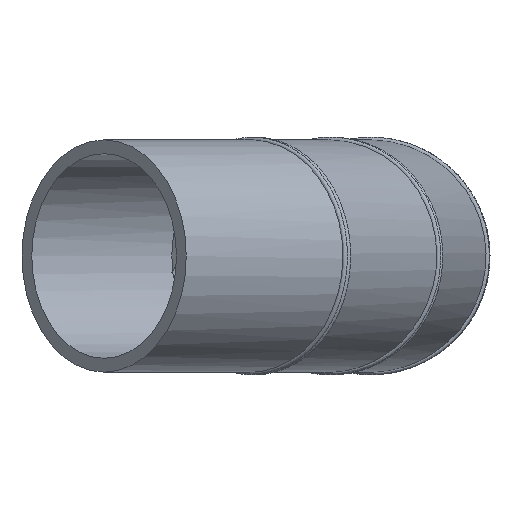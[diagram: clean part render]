
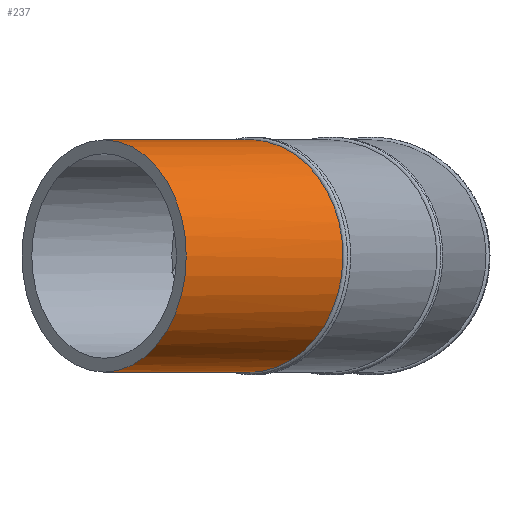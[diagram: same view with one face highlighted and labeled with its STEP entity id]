
A CAD part, front view. The second image highlights one B-rep face of the part: STEP entity #237.
In plain terms, the highlighted cylindrical face has radius 177.5 mm (diameter 355 mm), a full revolution.
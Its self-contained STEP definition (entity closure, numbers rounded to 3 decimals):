
#41=B_SPLINE_CURVE_WITH_KNOTS('',3,(#403,#404,#405,#406,#407,#408,#409,
#410,#411,#412,#413,#414,#415,#416,#417,#418,#419,#420,#421,#422,#423,#424,
#425,#426,#427,#428,#429,#430,#431,#432,#433,#434,#435,#436,#437,#438,#439,
#440,#441,#442,#443,#444,#445,#446,#447,#448,#449,#450,#451,#452,#453,#454,
#455,#456,#457,#458,#459,#460,#461,#462,#463,#464,#465,#466,#467,#468,#469,
#470,#471,#472,#473,#474,#475,#476,#477,#478,#479,#480,#481,#482,#483,#484),
 .UNSPECIFIED.,.T.,.F.,(1,1,1,1,1,1,1,1,1,1,1,1,1,1,1,1,1,1,1,1,1,1,1,1,
1,1,1,1,1,1,1,1,1,1,1,1,1,1,1,1,1,1,1,1,1,1,1,1,1,1,1,1,1,1,1,1,1,1,1,1,
1,1,1,1,1,1,1,1,1,1,1,1,1,1,1,1,1,1,1,1,1,1,1,1,1,1),(-0.07,
-0.053,-0.035,0.,0.018,
0.035,0.044,0.053,0.07,
0.088,0.097,0.105,0.123,
0.141,0.158,0.167,0.176,
0.193,0.211,0.229,0.246,
0.264,0.272,0.281,0.299,
0.316,0.334,0.343,0.352,
0.36,0.369,0.387,0.404,0.422,
0.439,0.457,0.475,0.483,
0.492,0.51,0.527,0.545,
0.554,0.562,0.571,0.58,
0.598,0.615,0.633,0.65,
0.659,0.668,0.686,0.703,
0.721,0.729,0.738,0.747,0.756,
0.773,0.791,0.809,0.817,
0.826,0.844,0.861,0.879,
0.896,0.914,0.932,0.94,
0.949,0.958,0.967,0.984,
1.002,1.019,1.037,1.046,1.055,
1.072,1.09,1.125,1.143,1.16,
1.169),.UNSPECIFIED.);
#50=CYLINDRICAL_SURFACE('',#287,177.5);
#82=ORIENTED_EDGE('',*,*,#134,.T.);
#83=ORIENTED_EDGE('',*,*,#127,.F.);
#127=EDGE_CURVE('',#153,#153,#173,.T.);
#134=EDGE_CURVE('',#160,#160,#41,.T.);
#153=VERTEX_POINT('',#388);
#160=VERTEX_POINT('',#485);
#173=CIRCLE('',#279,177.5);
#179=EDGE_LOOP('',(#82));
#180=EDGE_LOOP('',(#83));
#207=FACE_BOUND('',#179,.T.);
#208=FACE_BOUND('',#180,.T.);
#237=ADVANCED_FACE('',(#207,#208),#50,.T.);
#279=AXIS2_PLACEMENT_3D('',#387,#317,#318);
#287=AXIS2_PLACEMENT_3D('',#402,#333,#334);
#317=DIRECTION('',(0.,1.,0.));
#318=DIRECTION('',(-1.,0.,0.));
#333=DIRECTION('',(0.,1.,0.));
#334=DIRECTION('',(-1.,0.,0.));
#387=CARTESIAN_POINT('',(899.097,205.,0.));
#388=CARTESIAN_POINT('',(721.597,205.,0.));
#402=CARTESIAN_POINT('',(899.097,-141.737,0.));
#403=CARTESIAN_POINT('',(723.34,-87.194,-29.263));
#404=CARTESIAN_POINT('',(721.014,-86.889,-5.865));
#405=CARTESIAN_POINT('',(722.18,-87.042,17.58));
#406=CARTESIAN_POINT('',(724.332,-87.325,31.995));
#407=CARTESIAN_POINT('',(726.918,-87.664,43.434));
#408=CARTESIAN_POINT('',(730.042,-88.074,54.641));
#409=CARTESIAN_POINT('',(734.932,-88.716,68.235));
#410=CARTESIAN_POINT('',(741.115,-89.528,81.283));
#411=CARTESIAN_POINT('',(746.847,-90.281,91.388));
#412=CARTESIAN_POINT('',(753.116,-91.104,101.269));
#413=CARTESIAN_POINT('',(761.796,-92.244,112.946));
#414=CARTESIAN_POINT('',(773.587,-93.793,125.918));
#415=CARTESIAN_POINT('',(784.375,-95.21,135.664));
#416=CARTESIAN_POINT('',(793.579,-96.42,142.82));
#417=CARTESIAN_POINT('',(803.08,-97.669,149.486));
#418=CARTESIAN_POINT('',(815.594,-99.314,156.955));
#419=CARTESIAN_POINT('',(831.339,-101.384,164.367));
#420=CARTESIAN_POINT('',(847.795,-103.548,170.22));
#421=CARTESIAN_POINT('',(864.504,-105.746,174.378));
#422=CARTESIAN_POINT('',(878.693,-107.613,176.487));
#423=CARTESIAN_POINT('',(890.186,-109.126,177.347));
#424=CARTESIAN_POINT('',(901.807,-110.656,177.645));
#425=CARTESIAN_POINT('',(916.263,-112.559,176.954));
#426=CARTESIAN_POINT('',(933.53,-114.834,174.418));
#427=CARTESIAN_POINT('',(947.578,-116.684,170.923));
#428=CARTESIAN_POINT('',(958.633,-118.141,167.293));
#429=CARTESIAN_POINT('',(966.753,-119.211,164.177));
#430=CARTESIAN_POINT('',(974.709,-120.26,160.668));
#431=CARTESIAN_POINT('',(985.115,-121.632,155.455));
#432=CARTESIAN_POINT('',(997.58,-123.275,148.017));
#433=CARTESIAN_POINT('',(1011.65,-125.131,137.621));
#434=CARTESIAN_POINT('',(1024.595,-126.839,125.931));
#435=CARTESIAN_POINT('',(1036.38,-128.393,112.963));
#436=CARTESIAN_POINT('',(1046.698,-129.755,99.093));
#437=CARTESIAN_POINT('',(1054.149,-130.738,86.739));
#438=CARTESIAN_POINT('',(1059.399,-131.432,76.387));
#439=CARTESIAN_POINT('',(1064.174,-132.062,65.693));
#440=CARTESIAN_POINT('',(1069.118,-132.715,51.975));
#441=CARTESIAN_POINT('',(1073.423,-133.283,34.917));
#442=CARTESIAN_POINT('',(1075.581,-133.568,20.479));
#443=CARTESIAN_POINT('',(1076.452,-133.683,8.786));
#444=CARTESIAN_POINT('',(1076.668,-133.712,0.029));
#445=CARTESIAN_POINT('',(1076.454,-133.683,-8.731));
#446=CARTESIAN_POINT('',(1075.587,-133.569,-20.426));
#447=CARTESIAN_POINT('',(1073.435,-133.285,-34.86));
#448=CARTESIAN_POINT('',(1069.131,-132.716,-51.927));
#449=CARTESIAN_POINT('',(1063.256,-131.941,-68.245));
#450=CARTESIAN_POINT('',(1057.074,-131.125,-81.288));
#451=CARTESIAN_POINT('',(1051.357,-130.37,-91.37));
#452=CARTESIAN_POINT('',(1045.097,-129.544,-101.242));
#453=CARTESIAN_POINT('',(1036.412,-128.398,-112.928));
#454=CARTESIAN_POINT('',(1024.623,-126.842,-125.901));
#455=CARTESIAN_POINT('',(1013.844,-125.42,-135.641));
#456=CARTESIAN_POINT('',(1004.638,-124.206,-142.803));
#457=CARTESIAN_POINT('',(997.506,-123.266,-147.808));
#458=CARTESIAN_POINT('',(990.144,-122.295,-152.454));
#459=CARTESIAN_POINT('',(980.001,-120.958,-158.177));
#460=CARTESIAN_POINT('',(966.881,-119.228,-164.356));
#461=CARTESIAN_POINT('',(950.428,-117.06,-170.213));
#462=CARTESIAN_POINT('',(936.379,-115.209,-173.71));
#463=CARTESIAN_POINT('',(924.916,-113.699,-175.684));
#464=CARTESIAN_POINT('',(913.461,-112.191,-177.082));
#465=CARTESIAN_POINT('',(899.131,-110.304,-177.776));
#466=CARTESIAN_POINT('',(881.951,-108.042,-176.953));
#467=CARTESIAN_POINT('',(864.694,-105.771,-174.424));
#468=CARTESIAN_POINT('',(847.824,-103.552,-170.23));
#469=CARTESIAN_POINT('',(831.372,-101.388,-164.38));
#470=CARTESIAN_POINT('',(818.25,-99.663,-158.206));
#471=CARTESIAN_POINT('',(808.105,-98.329,-152.487));
#472=CARTESIAN_POINT('',(800.742,-97.361,-147.844));
#473=CARTESIAN_POINT('',(793.608,-96.424,-142.842));
#474=CARTESIAN_POINT('',(784.399,-95.214,-135.684));
#475=CARTESIAN_POINT('',(773.618,-93.797,-125.95));
#476=CARTESIAN_POINT('',(761.818,-92.247,-112.97));
#477=CARTESIAN_POINT('',(751.488,-90.89,-99.082));
#478=CARTESIAN_POINT('',(744.042,-89.912,-86.734));
#479=CARTESIAN_POINT('',(738.8,-89.224,-76.399));
#480=CARTESIAN_POINT('',(734.03,-88.598,-65.721));
#481=CARTESIAN_POINT('',(729.079,-87.948,-51.987));
#482=CARTESIAN_POINT('',(723.34,-87.194,-29.263));
#483=CARTESIAN_POINT('',(721.014,-86.889,-5.865));
#484=CARTESIAN_POINT('',(722.18,-87.042,17.58));
#485=CARTESIAN_POINT('',(721.597,-86.965,0.));
